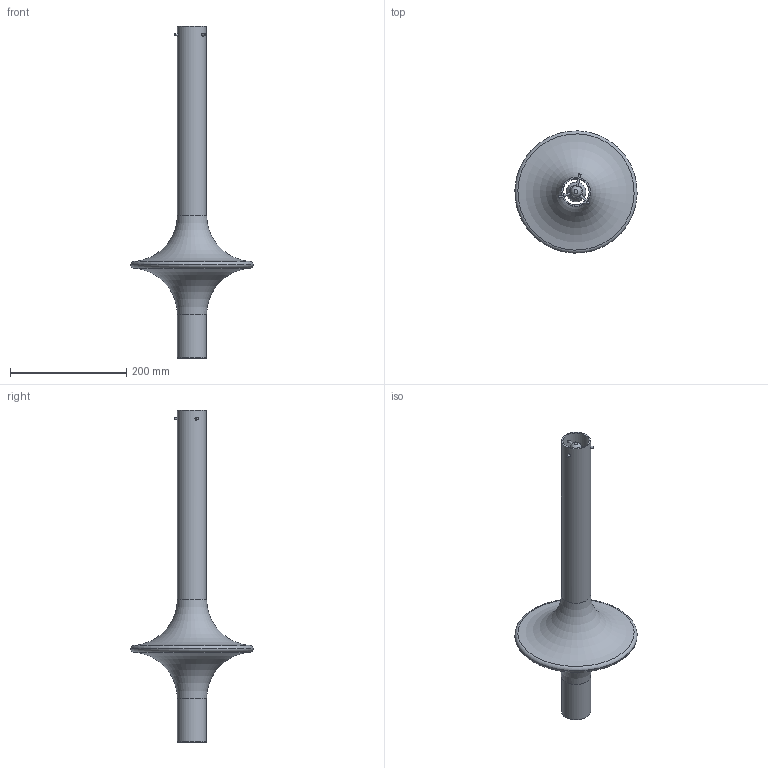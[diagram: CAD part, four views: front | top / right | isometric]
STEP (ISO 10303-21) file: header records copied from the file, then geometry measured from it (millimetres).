
FILE_DESCRIPTION(/* description */ (''),/* implementation_level */ '2;1');
FILE_NAME(/* name */ 'C:\Users\STEFANO\Desktop\3D SEM\1504-21 - WONDER SOSPENSIONE MEDIUM F.E\SEM.000031.stp',/* time_stamp */ '2019-09-16T11:01:35+02:00',/* author */ ('STEFANO'),/* organization */ (''),/* preprocessor_version */ 'ST-DEVELOPER v17',/* originating_system */ 'Autodesk Inventor 2019',/* authorisation */ '');
FILE_SCHEMA (('AUTOMOTIVE_DESIGN { 1 0 10303 214 3 1 1 }'));
Length unit declared in the file: millimetre
Products named in the file (7): SEM.000028 DA MODIFICARE; 16492_055.02; 16492_048.01; 16492_050.01; 16492_049.022; PIROLINO MEDIO; SMALL 50
Assembly tree (8 placements, depth 2):
  SEM.000028 DA MODIFICARE
    16492_055.02
    16492_048.01
    16492_050.01
    16492_049.022
    PIROLINO MEDIO  x3
    SMALL 50
Bounding box: 209.8 x 209.8 x 570 mm (x, y, z)
Volume: 421514 mm3; surface area: 312835.2 mm2
Topology: 8 solids, 9 shells, 65 faces, 161 edges, 115 vertices
Faces by surface type: cylinder 26, plane 20, torus 11, cone 6, sphere 2
Full cylindrical faces by diameter (mm): 3.3 x3, 4 x3, 4.5 x3, 5 x3, 10 x1, 10.036 x1, 23.6 x1, 45 x2, 50 x2, 205 x1, 210 x1
Entity records: 2460 total; most frequent: CARTESIAN_POINT 662, DIRECTION 378, ORIENTED_EDGE 302, AXIS2_PLACEMENT_3D 175, EDGE_CURVE 151, VERTEX_POINT 111, CIRCLE 98, EDGE_LOOP 72
